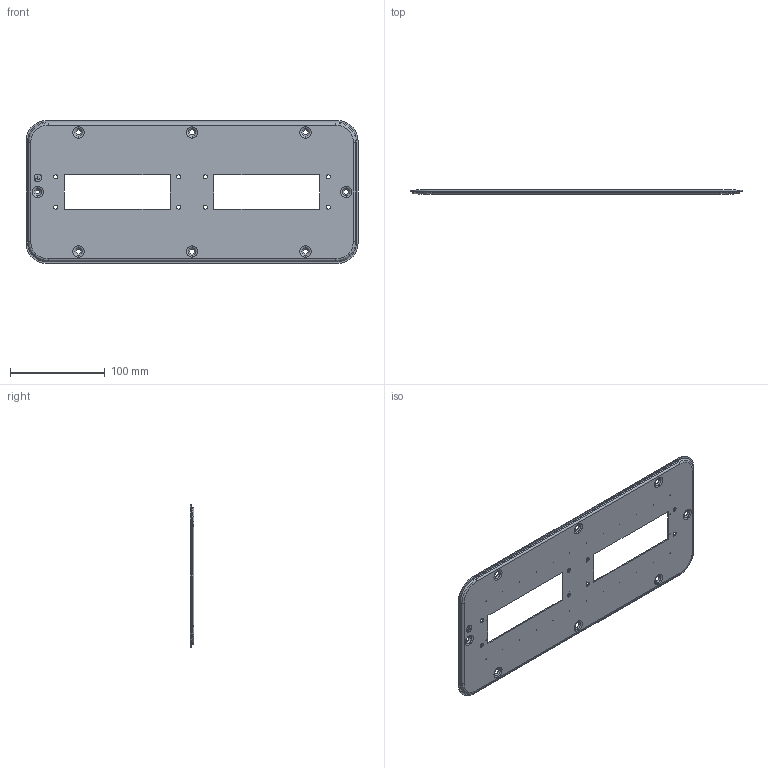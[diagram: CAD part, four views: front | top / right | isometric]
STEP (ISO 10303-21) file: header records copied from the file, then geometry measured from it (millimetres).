
FILE_DESCRIPTION (( 'STEP AP203' ), '1' );
FILE_NAME ('ECIF0005.STEP', '2020-04-07T14:22:40', ( '' ), ( '' ), 'SwSTEP 2.0', 'SolidWorks 2019', '' );
FILE_SCHEMA (( 'CONFIG_CONTROL_DESIGN' ));
Length unit declared in the file: millimetre
Products named in the file (2): ECIF0005; 10008070501_04
Assembly tree (1 placements, depth 2):
  ECIF0005
    10008070501_04
Bounding box: 351 x 4 x 151 mm (x, y, z)
Volume: 54635.2 mm3; surface area: 93339.8 mm2
Topology: 1 solids, 1 shells, 290 faces, 692 edges, 440 vertices
Faces by surface type: cylinder 110, plane 76, cone 48, torus 32, bspline 24
Entity records: 9230 total; most frequent: CARTESIAN_POINT 2126, DIRECTION 1556, ORIENTED_EDGE 1384, EDGE_CURVE 692, AXIS2_PLACEMENT_3D 642, VERTEX_POINT 440, CIRCLE 372, EDGE_LOOP 362
